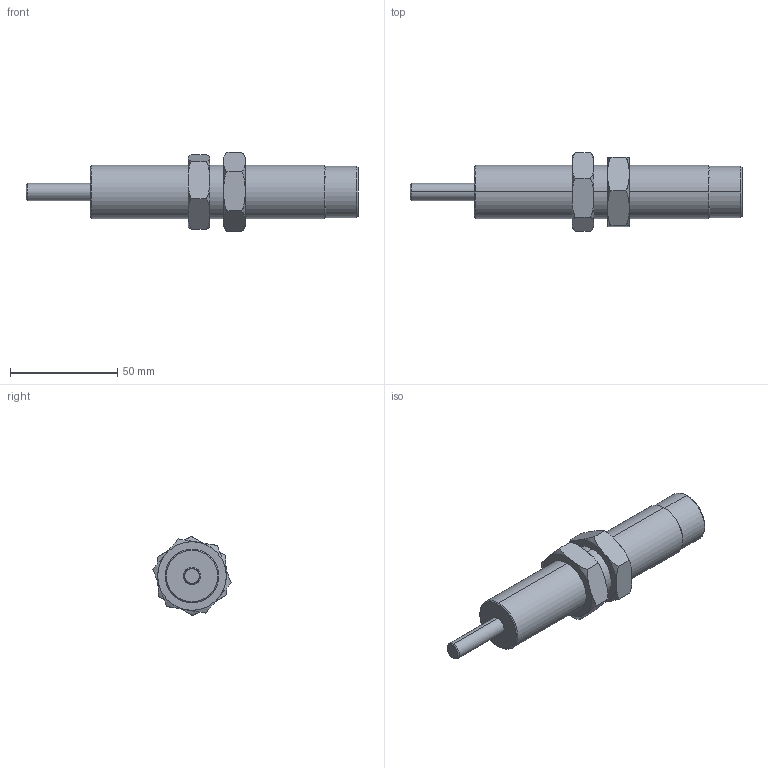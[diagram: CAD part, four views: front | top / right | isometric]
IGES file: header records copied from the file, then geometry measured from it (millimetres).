
Start section: SolidWorks IGES file using analytic representation for surfaces
Global section: file name: C:\Users\Sam Lin\Desktop\48\FSA-2530BB(CC)(CD).IGS; native system: SolidWorks 2013; preprocessor: SolidWorks 2013; author: Sam Lin; date: 160317.153006; units: metre
Bounding box: 155 x 36.43 x 36.94 mm (x, y, z)
Surface area: 16666.4 mm2 (no closed solid volume)
Topology: 0 solids, 0 shells, 61 faces, 1096 edges, 1096 vertices
Faces by surface type: bspline 43, revolution 18
